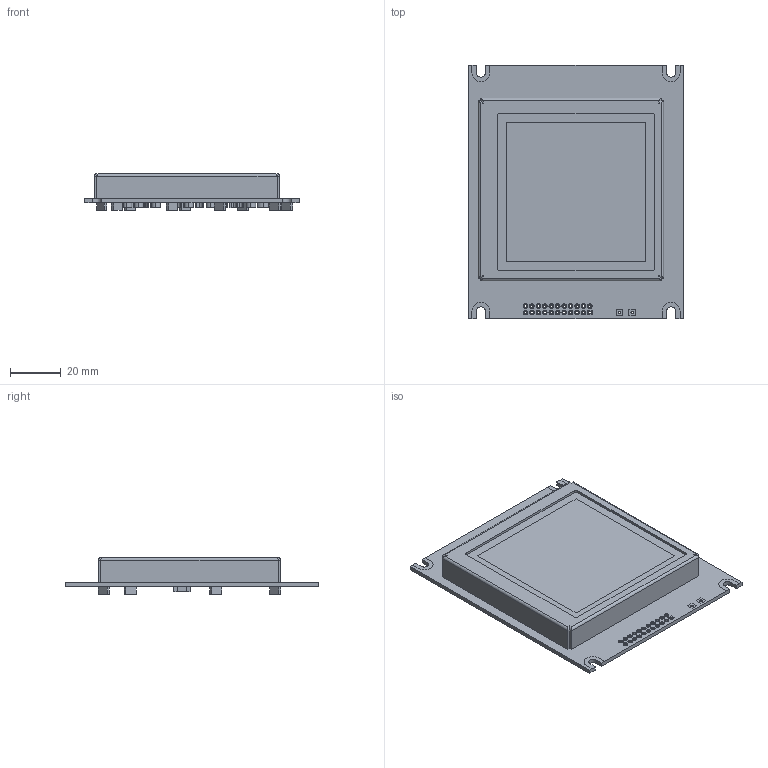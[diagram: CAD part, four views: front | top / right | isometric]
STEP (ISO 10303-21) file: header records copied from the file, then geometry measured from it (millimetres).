
FILE_DESCRIPTION (( 'STEP AP214' ), '1' );
FILE_NAME ('CFAG128128A1-TMI-TZ.STEP', '2022-07-28T18:38:20', ( '' ), ( '' ), 'SwSTEP 2.0', 'SolidWorks 2021', '' );
FILE_SCHEMA (( 'AUTOMOTIVE_DESIGN' ));
Length unit declared in the file: millimetre
Products named in the file (1): CFAG128128A1-TMI-TZ
Bounding box: 85 x 100 x 14.5 mm (x, y, z)
Volume: 61863.8 mm3; surface area: 32161.1 mm2
Topology: 12 solids, 12 shells, 411 faces, 1067 edges, 750 vertices
Faces by surface type: plane 242, bspline 101, cylinder 68
Entity records: 19608 total; most frequent: CARTESIAN_POINT 7894, ORIENTED_EDGE 2134, DIRECTION 1679, EDGE_CURVE 1067, VERTEX_POINT 750, VECTOR 649, LINE 649, EDGE_LOOP 529
